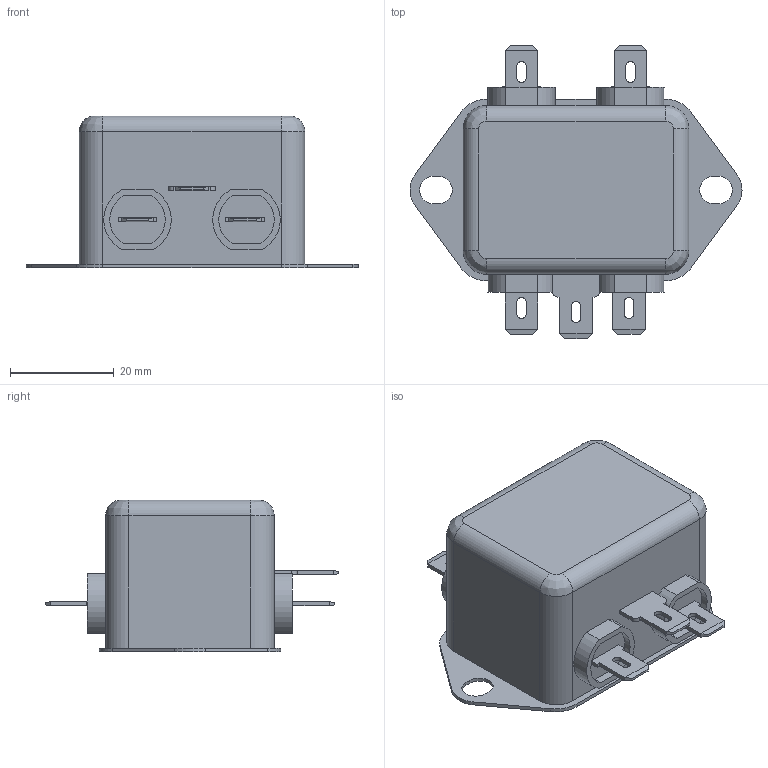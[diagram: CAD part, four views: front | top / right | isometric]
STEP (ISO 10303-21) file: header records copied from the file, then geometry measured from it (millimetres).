
FILE_DESCRIPTION((''),'2;1');
FILE_NAME('K:\Development\Product_FN\FN2020\FN2020-10-06 (291-686)\1_technical_file\3_technical_drawing\FN2020-10-06.stp','2012-08-30T15:09:19',('ice.li'),(''),'Autodesk Inventor 2010','Autodesk Inventor 2010','');
FILE_SCHEMA(('AUTOMOTIVE_DESIGN { 1 0 10303 214 1 1 1 1 }'));
Length unit declared in the file: millimetre
Products named in the file (1): 800606
Bounding box: 64 x 56.5 x 29.3 mm (x, y, z)
Volume: 42435.2 mm3; surface area: 9170 mm2
Topology: 1 solids, 1 shells, 166 faces, 422 edges, 272 vertices
Faces by surface type: plane 116, cylinder 46, bspline 4
Entity records: 5221 total; most frequent: CARTESIAN_POINT 1037, DIRECTION 844, ORIENTED_EDGE 844, EDGE_CURVE 422, VECTOR 326, LINE 326, VERTEX_POINT 272, AXIS2_PLACEMENT_3D 259
